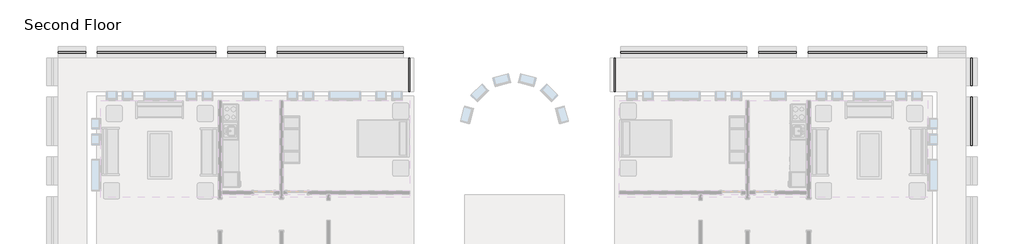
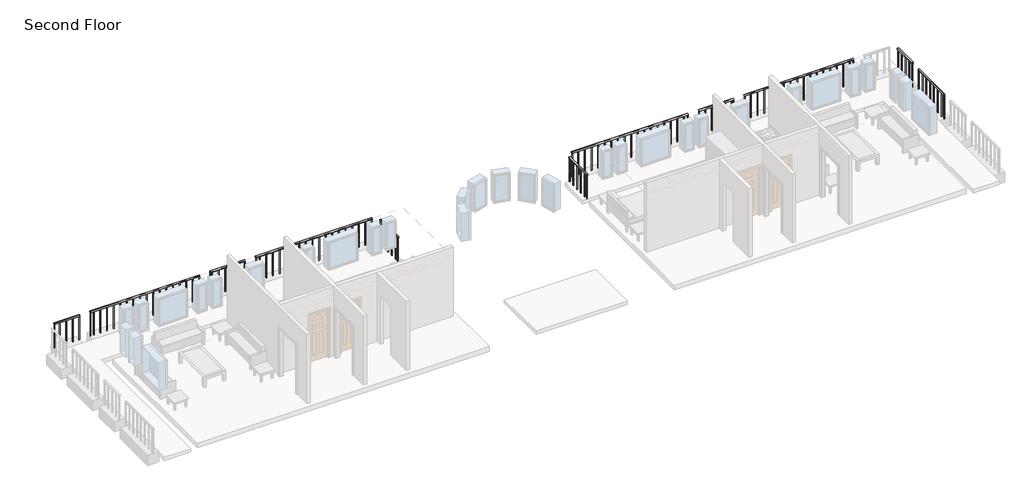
# One storey, part 6 of 8: 11 railings.
"""IFC4 building model written with IfcOpenShell, lengths in millimetres."""

from ifc_helpers import new_model, si_unit, frame, origin, place, context, project, spatial, polyline, outline, extrude, element, save

model = new_model("IFC4")

# Units and contexts
model_context = context("Model", 3, world=origin())
ifc_project = project(units=[si_unit("LENGTHUNIT", "METRE", prefix="MILLI")], contexts=[model_context])

# Site, building, storey
site = spatial("IfcSite", under=ifc_project)
building = spatial("IfcBuilding", under=site)
storey = spatial("IfcBuildingStorey", under=building, Name="Second Floor", Elevation=3048.0)

# Railings
placement = place(None, origin())
element("IfcRailing", 1, ObjectType="1100mm", at=placement, inside=storey, context=model_context, shape_type="SweptSolid", body=[
    extrude(outline(polyline([(-14885.3416203, 4231.1188386), (-14885.3416203, 4281.1188386), (-10043.3416203, 4281.1188386), (-10043.3416203, 4231.1188386), (-14885.3416203, 4231.1188386)])), frame((0.0, 0.0, 4098.0), z_axis=(0.0, 0.0, 1.0), x_axis=(1.0, 0.0, 0.0)), (0.0, 0.0, 1.0), 50.0),
    extrude(outline(polyline([(-10222.8416203, 4243.6188386), (-10222.8416203, 4268.6188386), (-10197.8416203, 4268.6188386), (-10197.8416203, 4243.6188386), (-10222.8416203, 4243.6188386)])), frame((0.0, 0.0, 3048.0), z_axis=(0.0, 0.0, 1.0), x_axis=(1.0, 0.0, 0.0)), (0.0, 0.0, 1.0), 1050.0),
    extrude(outline(polyline([(-10497.8416203, 4243.6188386), (-10497.8416203, 4268.6188386), (-10472.8416203, 4268.6188386), (-10472.8416203, 4243.6188386), (-10497.8416203, 4243.6188386)])), frame((0.0, 0.0, 3048.0), z_axis=(0.0, 0.0, 1.0), x_axis=(1.0, 0.0, 0.0)), (0.0, 0.0, 1.0), 1050.0),
    extrude(outline(polyline([(-10772.8416203, 4243.6188386), (-10772.8416203, 4268.6188386), (-10747.8416203, 4268.6188386), (-10747.8416203, 4243.6188386), (-10772.8416203, 4243.6188386)])), frame((0.0, 0.0, 3048.0), z_axis=(0.0, 0.0, 1.0), x_axis=(1.0, 0.0, 0.0)), (0.0, 0.0, 1.0), 1050.0),
    extrude(outline(polyline([(-11047.8416203, 4243.6188386), (-11047.8416203, 4268.6188386), (-11022.8416203, 4268.6188386), (-11022.8416203, 4243.6188386), (-11047.8416203, 4243.6188386)])), frame((0.0, 0.0, 3048.0), z_axis=(0.0, 0.0, 1.0), x_axis=(1.0, 0.0, 0.0)), (0.0, 0.0, 1.0), 1050.0),
    extrude(outline(polyline([(-11322.8416203, 4243.6188386), (-11322.8416203, 4268.6188386), (-11297.8416203, 4268.6188386), (-11297.8416203, 4243.6188386), (-11322.8416203, 4243.6188386)])), frame((0.0, 0.0, 3048.0), z_axis=(0.0, 0.0, 1.0), x_axis=(1.0, 0.0, 0.0)), (0.0, 0.0, 1.0), 1050.0),
    extrude(outline(polyline([(-11597.8416203, 4243.6188386), (-11597.8416203, 4268.6188386), (-11572.8416203, 4268.6188386), (-11572.8416203, 4243.6188386), (-11597.8416203, 4243.6188386)])), frame((0.0, 0.0, 3048.0), z_axis=(0.0, 0.0, 1.0), x_axis=(1.0, 0.0, 0.0)), (0.0, 0.0, 1.0), 1050.0),
    extrude(outline(polyline([(-11872.8416203, 4243.6188386), (-11872.8416203, 4268.6188386), (-11847.8416203, 4268.6188386), (-11847.8416203, 4243.6188386), (-11872.8416203, 4243.6188386)])), frame((0.0, 0.0, 3048.0), z_axis=(0.0, 0.0, 1.0), x_axis=(1.0, 0.0, 0.0)), (0.0, 0.0, 1.0), 1050.0),
    extrude(outline(polyline([(-12147.8416203, 4243.6188386), (-12147.8416203, 4268.6188386), (-12122.8416203, 4268.6188386), (-12122.8416203, 4243.6188386), (-12147.8416203, 4243.6188386)])), frame((0.0, 0.0, 3048.0), z_axis=(0.0, 0.0, 1.0), x_axis=(1.0, 0.0, 0.0)), (0.0, 0.0, 1.0), 1050.0),
    extrude(outline(polyline([(-12422.8416203, 4243.6188386), (-12422.8416203, 4268.6188386), (-12397.8416203, 4268.6188386), (-12397.8416203, 4243.6188386), (-12422.8416203, 4243.6188386)])), frame((0.0, 0.0, 3048.0), z_axis=(0.0, 0.0, 1.0), x_axis=(1.0, 0.0, 0.0)), (0.0, 0.0, 1.0), 1050.0),
    extrude(outline(polyline([(-12697.8416203, 4243.6188386), (-12697.8416203, 4268.6188386), (-12672.8416203, 4268.6188386), (-12672.8416203, 4243.6188386), (-12697.8416203, 4243.6188386)])), frame((0.0, 0.0, 3048.0), z_axis=(0.0, 0.0, 1.0), x_axis=(1.0, 0.0, 0.0)), (0.0, 0.0, 1.0), 1050.0),
    extrude(outline(polyline([(-12972.8416203, 4243.6188386), (-12972.8416203, 4268.6188386), (-12947.8416203, 4268.6188386), (-12947.8416203, 4243.6188386), (-12972.8416203, 4243.6188386)])), frame((0.0, 0.0, 3048.0), z_axis=(0.0, 0.0, 1.0), x_axis=(1.0, 0.0, 0.0)), (0.0, 0.0, 1.0), 1050.0),
    extrude(outline(polyline([(-13247.8416203, 4243.6188386), (-13247.8416203, 4268.6188386), (-13222.8416203, 4268.6188386), (-13222.8416203, 4243.6188386), (-13247.8416203, 4243.6188386)])), frame((0.0, 0.0, 3048.0), z_axis=(0.0, 0.0, 1.0), x_axis=(1.0, 0.0, 0.0)), (0.0, 0.0, 1.0), 1050.0),
    extrude(outline(polyline([(-13522.8416203, 4243.6188386), (-13522.8416203, 4268.6188386), (-13497.8416203, 4268.6188386), (-13497.8416203, 4243.6188386), (-13522.8416203, 4243.6188386)])), frame((0.0, 0.0, 3048.0), z_axis=(0.0, 0.0, 1.0), x_axis=(1.0, 0.0, 0.0)), (0.0, 0.0, 1.0), 1050.0),
    extrude(outline(polyline([(-13797.8416203, 4243.6188386), (-13797.8416203, 4268.6188386), (-13772.8416203, 4268.6188386), (-13772.8416203, 4243.6188386), (-13797.8416203, 4243.6188386)])), frame((0.0, 0.0, 3048.0), z_axis=(0.0, 0.0, 1.0), x_axis=(1.0, 0.0, 0.0)), (0.0, 0.0, 1.0), 1050.0),
    extrude(outline(polyline([(-14072.8416203, 4243.6188386), (-14072.8416203, 4268.6188386), (-14047.8416203, 4268.6188386), (-14047.8416203, 4243.6188386), (-14072.8416203, 4243.6188386)])), frame((0.0, 0.0, 3048.0), z_axis=(0.0, 0.0, 1.0), x_axis=(1.0, 0.0, 0.0)), (0.0, 0.0, 1.0), 1050.0),
    extrude(outline(polyline([(-14347.8416203, 4243.6188386), (-14347.8416203, 4268.6188386), (-14322.8416203, 4268.6188386), (-14322.8416203, 4243.6188386), (-14347.8416203, 4243.6188386)])), frame((0.0, 0.0, 3048.0), z_axis=(0.0, 0.0, 1.0), x_axis=(1.0, 0.0, 0.0)), (0.0, 0.0, 1.0), 1050.0),
    extrude(outline(polyline([(-14622.8416203, 4243.6188386), (-14622.8416203, 4268.6188386), (-14597.8416203, 4268.6188386), (-14597.8416203, 4243.6188386), (-14622.8416203, 4243.6188386)])), frame((0.0, 0.0, 3048.0), z_axis=(0.0, 0.0, 1.0), x_axis=(1.0, 0.0, 0.0)), (0.0, 0.0, 1.0), 1050.0),
    extrude(outline(polyline([(-10068.3416203, 4243.6188386), (-10068.3416203, 4268.6188386), (-10043.3416203, 4268.6188386), (-10043.3416203, 4243.6188386), (-10068.3416203, 4243.6188386)])), frame((0.0, 0.0, 3048.0), z_axis=(0.0, 0.0, 1.0), x_axis=(1.0, 0.0, 0.0)), (0.0, 0.0, 1.0), 1050.0),
    extrude(outline(polyline([(-14885.3416203, 4243.6188386), (-14885.3416203, 4268.6188386), (-14860.3416203, 4268.6188386), (-14860.3416203, 4243.6188386), (-14885.3416203, 4243.6188386)])), frame((0.0, 0.0, 3048.0), z_axis=(0.0, 0.0, 1.0), x_axis=(1.0, 0.0, 0.0)), (0.0, 0.0, 1.0), 1050.0),
])
element("IfcRailing", 2, ObjectType="1100mm", at=placement, inside=storey, context=model_context, shape_type="SweptSolid", body=[
    extrude(outline(polyline([(-9593.3416203, 4231.1188386), (-9593.3416203, 4281.1188386), (-8143.3416203, 4281.1188386), (-8143.3416203, 4231.1188386), (-9593.3416203, 4231.1188386)])), frame((0.0, 0.0, 4098.0), z_axis=(0.0, 0.0, 1.0), x_axis=(1.0, 0.0, 0.0)), (0.0, 0.0, 1.0), 50.0),
    extrude(outline(polyline([(-8230.8416203, 4243.6188386), (-8230.8416203, 4268.6188386), (-8205.8416203, 4268.6188386), (-8205.8416203, 4243.6188386), (-8230.8416203, 4243.6188386)])), frame((0.0, 0.0, 3048.0), z_axis=(0.0, 0.0, 1.0), x_axis=(1.0, 0.0, 0.0)), (0.0, 0.0, 1.0), 1050.0),
    extrude(outline(polyline([(-8505.8416203, 4243.6188386), (-8505.8416203, 4268.6188386), (-8480.8416203, 4268.6188386), (-8480.8416203, 4243.6188386), (-8505.8416203, 4243.6188386)])), frame((0.0, 0.0, 3048.0), z_axis=(0.0, 0.0, 1.0), x_axis=(1.0, 0.0, 0.0)), (0.0, 0.0, 1.0), 1050.0),
    extrude(outline(polyline([(-8780.8416203, 4243.6188386), (-8780.8416203, 4268.6188386), (-8755.8416203, 4268.6188386), (-8755.8416203, 4243.6188386), (-8780.8416203, 4243.6188386)])), frame((0.0, 0.0, 3048.0), z_axis=(0.0, 0.0, 1.0), x_axis=(1.0, 0.0, 0.0)), (0.0, 0.0, 1.0), 1050.0),
    extrude(outline(polyline([(-9055.8416203, 4243.6188386), (-9055.8416203, 4268.6188386), (-9030.8416203, 4268.6188386), (-9030.8416203, 4243.6188386), (-9055.8416203, 4243.6188386)])), frame((0.0, 0.0, 3048.0), z_axis=(0.0, 0.0, 1.0), x_axis=(1.0, 0.0, 0.0)), (0.0, 0.0, 1.0), 1050.0),
    extrude(outline(polyline([(-9330.8416203, 4243.6188386), (-9330.8416203, 4268.6188386), (-9305.8416203, 4268.6188386), (-9305.8416203, 4243.6188386), (-9330.8416203, 4243.6188386)])), frame((0.0, 0.0, 3048.0), z_axis=(0.0, 0.0, 1.0), x_axis=(1.0, 0.0, 0.0)), (0.0, 0.0, 1.0), 1050.0),
    extrude(outline(polyline([(-8168.3416203, 4243.6188386), (-8168.3416203, 4268.6188386), (-8143.3416203, 4268.6188386), (-8143.3416203, 4243.6188386), (-8168.3416203, 4243.6188386)])), frame((0.0, 0.0, 3048.0), z_axis=(0.0, 0.0, 1.0), x_axis=(1.0, 0.0, 0.0)), (0.0, 0.0, 1.0), 1050.0),
    extrude(outline(polyline([(-9593.3416203, 4243.6188386), (-9593.3416203, 4268.6188386), (-9568.3416203, 4268.6188386), (-9568.3416203, 4243.6188386), (-9593.3416203, 4243.6188386)])), frame((0.0, 0.0, 3048.0), z_axis=(0.0, 0.0, 1.0), x_axis=(1.0, 0.0, 0.0)), (0.0, 0.0, 1.0), 1050.0),
])
element("IfcRailing", 3, ObjectType="1100mm", at=placement, inside=storey, context=model_context, shape_type="SweptSolid", body=[
    extrude(outline(polyline([(-7693.3416203, 4231.1188386), (-7693.3416203, 4281.1188386), (-3143.3416203, 4281.1188386), (-3143.3416203, 4231.1188386), (-7693.3416203, 4231.1188386)])), frame((0.0, 0.0, 4098.0), z_axis=(0.0, 0.0, 1.0), x_axis=(1.0, 0.0, 0.0)), (0.0, 0.0, 1.0), 50.0),
    extrude(outline(polyline([(-3305.8416203, 4243.6188386), (-3305.8416203, 4268.6188386), (-3280.8416203, 4268.6188386), (-3280.8416203, 4243.6188386), (-3305.8416203, 4243.6188386)])), frame((0.0, 0.0, 3048.0), z_axis=(0.0, 0.0, 1.0), x_axis=(1.0, 0.0, 0.0)), (0.0, 0.0, 1.0), 1050.0),
    extrude(outline(polyline([(-3580.8416203, 4243.6188386), (-3580.8416203, 4268.6188386), (-3555.8416203, 4268.6188386), (-3555.8416203, 4243.6188386), (-3580.8416203, 4243.6188386)])), frame((0.0, 0.0, 3048.0), z_axis=(0.0, 0.0, 1.0), x_axis=(1.0, 0.0, 0.0)), (0.0, 0.0, 1.0), 1050.0),
    extrude(outline(polyline([(-3855.8416203, 4243.6188386), (-3855.8416203, 4268.6188386), (-3830.8416203, 4268.6188386), (-3830.8416203, 4243.6188386), (-3855.8416203, 4243.6188386)])), frame((0.0, 0.0, 3048.0), z_axis=(0.0, 0.0, 1.0), x_axis=(1.0, 0.0, 0.0)), (0.0, 0.0, 1.0), 1050.0),
    extrude(outline(polyline([(-4130.8416203, 4243.6188386), (-4130.8416203, 4268.6188386), (-4105.8416203, 4268.6188386), (-4105.8416203, 4243.6188386), (-4130.8416203, 4243.6188386)])), frame((0.0, 0.0, 3048.0), z_axis=(0.0, 0.0, 1.0), x_axis=(1.0, 0.0, 0.0)), (0.0, 0.0, 1.0), 1050.0),
    extrude(outline(polyline([(-4405.8416203, 4243.6188386), (-4405.8416203, 4268.6188386), (-4380.8416203, 4268.6188386), (-4380.8416203, 4243.6188386), (-4405.8416203, 4243.6188386)])), frame((0.0, 0.0, 3048.0), z_axis=(0.0, 0.0, 1.0), x_axis=(1.0, 0.0, 0.0)), (0.0, 0.0, 1.0), 1050.0),
    extrude(outline(polyline([(-4680.8416203, 4243.6188386), (-4680.8416203, 4268.6188386), (-4655.8416203, 4268.6188386), (-4655.8416203, 4243.6188386), (-4680.8416203, 4243.6188386)])), frame((0.0, 0.0, 3048.0), z_axis=(0.0, 0.0, 1.0), x_axis=(1.0, 0.0, 0.0)), (0.0, 0.0, 1.0), 1050.0),
    extrude(outline(polyline([(-4955.8416203, 4243.6188386), (-4955.8416203, 4268.6188386), (-4930.8416203, 4268.6188386), (-4930.8416203, 4243.6188386), (-4955.8416203, 4243.6188386)])), frame((0.0, 0.0, 3048.0), z_axis=(0.0, 0.0, 1.0), x_axis=(1.0, 0.0, 0.0)), (0.0, 0.0, 1.0), 1050.0),
    extrude(outline(polyline([(-5230.8416203, 4243.6188386), (-5230.8416203, 4268.6188386), (-5205.8416203, 4268.6188386), (-5205.8416203, 4243.6188386), (-5230.8416203, 4243.6188386)])), frame((0.0, 0.0, 3048.0), z_axis=(0.0, 0.0, 1.0), x_axis=(1.0, 0.0, 0.0)), (0.0, 0.0, 1.0), 1050.0),
    extrude(outline(polyline([(-5505.8416203, 4243.6188386), (-5505.8416203, 4268.6188386), (-5480.8416203, 4268.6188386), (-5480.8416203, 4243.6188386), (-5505.8416203, 4243.6188386)])), frame((0.0, 0.0, 3048.0), z_axis=(0.0, 0.0, 1.0), x_axis=(1.0, 0.0, 0.0)), (0.0, 0.0, 1.0), 1050.0),
    extrude(outline(polyline([(-5780.8416203, 4243.6188386), (-5780.8416203, 4268.6188386), (-5755.8416203, 4268.6188386), (-5755.8416203, 4243.6188386), (-5780.8416203, 4243.6188386)])), frame((0.0, 0.0, 3048.0), z_axis=(0.0, 0.0, 1.0), x_axis=(1.0, 0.0, 0.0)), (0.0, 0.0, 1.0), 1050.0),
    extrude(outline(polyline([(-6055.8416203, 4243.6188386), (-6055.8416203, 4268.6188386), (-6030.8416203, 4268.6188386), (-6030.8416203, 4243.6188386), (-6055.8416203, 4243.6188386)])), frame((0.0, 0.0, 3048.0), z_axis=(0.0, 0.0, 1.0), x_axis=(1.0, 0.0, 0.0)), (0.0, 0.0, 1.0), 1050.0),
    extrude(outline(polyline([(-6330.8416203, 4243.6188386), (-6330.8416203, 4268.6188386), (-6305.8416203, 4268.6188386), (-6305.8416203, 4243.6188386), (-6330.8416203, 4243.6188386)])), frame((0.0, 0.0, 3048.0), z_axis=(0.0, 0.0, 1.0), x_axis=(1.0, 0.0, 0.0)), (0.0, 0.0, 1.0), 1050.0),
    extrude(outline(polyline([(-6605.8416203, 4243.6188386), (-6605.8416203, 4268.6188386), (-6580.8416203, 4268.6188386), (-6580.8416203, 4243.6188386), (-6605.8416203, 4243.6188386)])), frame((0.0, 0.0, 3048.0), z_axis=(0.0, 0.0, 1.0), x_axis=(1.0, 0.0, 0.0)), (0.0, 0.0, 1.0), 1050.0),
    extrude(outline(polyline([(-6880.8416203, 4243.6188386), (-6880.8416203, 4268.6188386), (-6855.8416203, 4268.6188386), (-6855.8416203, 4243.6188386), (-6880.8416203, 4243.6188386)])), frame((0.0, 0.0, 3048.0), z_axis=(0.0, 0.0, 1.0), x_axis=(1.0, 0.0, 0.0)), (0.0, 0.0, 1.0), 1050.0),
    extrude(outline(polyline([(-7155.8416203, 4243.6188386), (-7155.8416203, 4268.6188386), (-7130.8416203, 4268.6188386), (-7130.8416203, 4243.6188386), (-7155.8416203, 4243.6188386)])), frame((0.0, 0.0, 3048.0), z_axis=(0.0, 0.0, 1.0), x_axis=(1.0, 0.0, 0.0)), (0.0, 0.0, 1.0), 1050.0),
    extrude(outline(polyline([(-7430.8416203, 4243.6188386), (-7430.8416203, 4268.6188386), (-7405.8416203, 4268.6188386), (-7405.8416203, 4243.6188386), (-7430.8416203, 4243.6188386)])), frame((0.0, 0.0, 3048.0), z_axis=(0.0, 0.0, 1.0), x_axis=(1.0, 0.0, 0.0)), (0.0, 0.0, 1.0), 1050.0),
    extrude(outline(polyline([(-3168.3416203, 4243.6188386), (-3168.3416203, 4268.6188386), (-3143.3416203, 4268.6188386), (-3143.3416203, 4243.6188386), (-3168.3416203, 4243.6188386)])), frame((0.0, 0.0, 3048.0), z_axis=(0.0, 0.0, 1.0), x_axis=(1.0, 0.0, 0.0)), (0.0, 0.0, 1.0), 1050.0),
    extrude(outline(polyline([(-7693.3416203, 4243.6188386), (-7693.3416203, 4268.6188386), (-7668.3416203, 4268.6188386), (-7668.3416203, 4243.6188386), (-7693.3416203, 4243.6188386)])), frame((0.0, 0.0, 3048.0), z_axis=(0.0, 0.0, 1.0), x_axis=(1.0, 0.0, 0.0)), (0.0, 0.0, 1.0), 1050.0),
])
element("IfcRailing", 4, ObjectType="1100mm", at=placement, inside=storey, context=model_context, shape_type="SweptSolid", body=[
    extrude(outline(polyline([(-1443.3416203, 4031.1188386), (-1393.3416203, 4031.1188386), (-1393.3416203, 2981.1188386), (-1443.3416203, 2981.1188386), (-1443.3416203, 4031.1188386)])), frame((0.0, 0.0, 4098.0), z_axis=(0.0, 0.0, 1.0), x_axis=(1.0, 0.0, 0.0)), (0.0, 0.0, 1.0), 50.0),
    extrude(outline(polyline([(-1430.8416203, 3218.6188386), (-1405.8416203, 3218.6188386), (-1405.8416203, 3193.6188386), (-1430.8416203, 3193.6188386), (-1430.8416203, 3218.6188386)])), frame((0.0, 0.0, 3048.0), z_axis=(0.0, 0.0, 1.0), x_axis=(1.0, 0.0, 0.0)), (0.0, 0.0, 1.0), 1050.0),
    extrude(outline(polyline([(-1430.8416203, 3493.6188386), (-1405.8416203, 3493.6188386), (-1405.8416203, 3468.6188386), (-1430.8416203, 3468.6188386), (-1430.8416203, 3493.6188386)])), frame((0.0, 0.0, 3048.0), z_axis=(0.0, 0.0, 1.0), x_axis=(1.0, 0.0, 0.0)), (0.0, 0.0, 1.0), 1050.0),
    extrude(outline(polyline([(-1430.8416203, 3768.6188386), (-1405.8416203, 3768.6188386), (-1405.8416203, 3743.6188386), (-1430.8416203, 3743.6188386), (-1430.8416203, 3768.6188386)])), frame((0.0, 0.0, 3048.0), z_axis=(0.0, 0.0, 1.0), x_axis=(1.0, 0.0, 0.0)), (0.0, 0.0, 1.0), 1050.0),
    extrude(outline(polyline([(-1430.8416203, 3006.1188386), (-1405.8416203, 3006.1188386), (-1405.8416203, 2981.1188386), (-1430.8416203, 2981.1188386), (-1430.8416203, 3006.1188386)])), frame((0.0, 0.0, 3048.0), z_axis=(0.0, 0.0, 1.0), x_axis=(1.0, 0.0, 0.0)), (0.0, 0.0, 1.0), 1050.0),
    extrude(outline(polyline([(-1430.8416203, 4031.1188386), (-1405.8416203, 4031.1188386), (-1405.8416203, 4006.1188386), (-1430.8416203, 4006.1188386), (-1430.8416203, 4031.1188386)])), frame((0.0, 0.0, 3048.0), z_axis=(0.0, 0.0, 1.0), x_axis=(1.0, 0.0, 0.0)), (0.0, 0.0, 1.0), 1050.0),
])
element("IfcRailing", 5, ObjectType="1100mm", at=placement, inside=storey, context=model_context, shape_type="SweptSolid", body=[
    extrude(outline(polyline([(-1443.3416203, 2531.1188386), (-1393.3416203, 2531.1188386), (-1393.3416203, 681.1188386), (-1443.3416203, 681.1188386), (-1443.3416203, 2531.1188386)])), frame((0.0, 0.0, 4098.0), z_axis=(0.0, 0.0, 1.0), x_axis=(1.0, 0.0, 0.0)), (0.0, 0.0, 1.0), 50.0),
    extrude(outline(polyline([(-1430.8416203, 893.6188386), (-1405.8416203, 893.6188386), (-1405.8416203, 868.6188386), (-1430.8416203, 868.6188386), (-1430.8416203, 893.6188386)])), frame((0.0, 0.0, 3048.0), z_axis=(0.0, 0.0, 1.0), x_axis=(1.0, 0.0, 0.0)), (0.0, 0.0, 1.0), 1050.0),
    extrude(outline(polyline([(-1430.8416203, 1168.6188386), (-1405.8416203, 1168.6188386), (-1405.8416203, 1143.6188386), (-1430.8416203, 1143.6188386), (-1430.8416203, 1168.6188386)])), frame((0.0, 0.0, 3048.0), z_axis=(0.0, 0.0, 1.0), x_axis=(1.0, 0.0, 0.0)), (0.0, 0.0, 1.0), 1050.0),
    extrude(outline(polyline([(-1430.8416203, 1443.6188386), (-1405.8416203, 1443.6188386), (-1405.8416203, 1418.6188386), (-1430.8416203, 1418.6188386), (-1430.8416203, 1443.6188386)])), frame((0.0, 0.0, 3048.0), z_axis=(0.0, 0.0, 1.0), x_axis=(1.0, 0.0, 0.0)), (0.0, 0.0, 1.0), 1050.0),
    extrude(outline(polyline([(-1430.8416203, 1718.6188386), (-1405.8416203, 1718.6188386), (-1405.8416203, 1693.6188386), (-1430.8416203, 1693.6188386), (-1430.8416203, 1718.6188386)])), frame((0.0, 0.0, 3048.0), z_axis=(0.0, 0.0, 1.0), x_axis=(1.0, 0.0, 0.0)), (0.0, 0.0, 1.0), 1050.0),
    extrude(outline(polyline([(-1430.8416203, 1993.6188386), (-1405.8416203, 1993.6188386), (-1405.8416203, 1968.6188386), (-1430.8416203, 1968.6188386), (-1430.8416203, 1993.6188386)])), frame((0.0, 0.0, 3048.0), z_axis=(0.0, 0.0, 1.0), x_axis=(1.0, 0.0, 0.0)), (0.0, 0.0, 1.0), 1050.0),
    extrude(outline(polyline([(-1430.8416203, 2268.6188386), (-1405.8416203, 2268.6188386), (-1405.8416203, 2243.6188386), (-1430.8416203, 2243.6188386), (-1430.8416203, 2268.6188386)])), frame((0.0, 0.0, 3048.0), z_axis=(0.0, 0.0, 1.0), x_axis=(1.0, 0.0, 0.0)), (0.0, 0.0, 1.0), 1050.0),
    extrude(outline(polyline([(-1430.8416203, 706.1188386), (-1405.8416203, 706.1188386), (-1405.8416203, 681.1188386), (-1430.8416203, 681.1188386), (-1430.8416203, 706.1188386)])), frame((0.0, 0.0, 3048.0), z_axis=(0.0, 0.0, 1.0), x_axis=(1.0, 0.0, 0.0)), (0.0, 0.0, 1.0), 1050.0),
    extrude(outline(polyline([(-1430.8416203, 2531.1188386), (-1405.8416203, 2531.1188386), (-1405.8416203, 2506.1188386), (-1430.8416203, 2506.1188386), (-1430.8416203, 2531.1188386)])), frame((0.0, 0.0, 3048.0), z_axis=(0.0, 0.0, 1.0), x_axis=(1.0, 0.0, 0.0)), (0.0, 0.0, 1.0), 1050.0),
])
element("IfcRailing", 6, ObjectType="1100mm", at=placement, inside=storey, context=model_context, shape_type="SweptSolid", body=[
    extrude(outline(polyline([(-15135.3416203, 4031.1188386), (-15085.3416203, 4031.1188386), (-15085.3416203, 2756.1188386), (-15135.3416203, 2756.1188386), (-15135.3416203, 4031.1188386)])), frame((0.0, 0.0, 4098.0), z_axis=(0.0, 0.0, 1.0), x_axis=(1.0, 0.0, 0.0)), (0.0, 0.0, 1.0), 50.0),
    extrude(outline(polyline([(-15122.8416203, 2943.6188386), (-15097.8416203, 2943.6188386), (-15097.8416203, 2918.6188386), (-15122.8416203, 2918.6188386), (-15122.8416203, 2943.6188386)])), frame((0.0, 0.0, 3048.0), z_axis=(0.0, 0.0, 1.0), x_axis=(1.0, 0.0, 0.0)), (0.0, 0.0, 1.0), 1050.0),
    extrude(outline(polyline([(-15122.8416203, 3218.6188386), (-15097.8416203, 3218.6188386), (-15097.8416203, 3193.6188386), (-15122.8416203, 3193.6188386), (-15122.8416203, 3218.6188386)])), frame((0.0, 0.0, 3048.0), z_axis=(0.0, 0.0, 1.0), x_axis=(1.0, 0.0, 0.0)), (0.0, 0.0, 1.0), 1050.0),
    extrude(outline(polyline([(-15122.8416203, 3493.6188386), (-15097.8416203, 3493.6188386), (-15097.8416203, 3468.6188386), (-15122.8416203, 3468.6188386), (-15122.8416203, 3493.6188386)])), frame((0.0, 0.0, 3048.0), z_axis=(0.0, 0.0, 1.0), x_axis=(1.0, 0.0, 0.0)), (0.0, 0.0, 1.0), 1050.0),
    extrude(outline(polyline([(-15122.8416203, 3768.6188386), (-15097.8416203, 3768.6188386), (-15097.8416203, 3743.6188386), (-15122.8416203, 3743.6188386), (-15122.8416203, 3768.6188386)])), frame((0.0, 0.0, 3048.0), z_axis=(0.0, 0.0, 1.0), x_axis=(1.0, 0.0, 0.0)), (0.0, 0.0, 1.0), 1050.0),
    extrude(outline(polyline([(-15122.8416203, 2781.1188386), (-15097.8416203, 2781.1188386), (-15097.8416203, 2756.1188386), (-15122.8416203, 2756.1188386), (-15122.8416203, 2781.1188386)])), frame((0.0, 0.0, 3048.0), z_axis=(0.0, 0.0, 1.0), x_axis=(1.0, 0.0, 0.0)), (0.0, 0.0, 1.0), 1050.0),
    extrude(outline(polyline([(-15122.8416203, 4031.1188386), (-15097.8416203, 4031.1188386), (-15097.8416203, 4006.1188386), (-15122.8416203, 4006.1188386), (-15122.8416203, 4031.1188386)])), frame((0.0, 0.0, 3048.0), z_axis=(0.0, 0.0, 1.0), x_axis=(1.0, 0.0, 0.0)), (0.0, 0.0, 1.0), 1050.0),
])
element("IfcRailing", 7, ObjectType="1100mm", at=placement, inside=storey, context=model_context, shape_type="SweptSolid", body=[
    extrude(outline(polyline([(-23216.8416203, 4281.1188386), (-23216.8416203, 4231.1188386), (-28058.8416203, 4231.1188386), (-28058.8416203, 4281.1188386), (-23216.8416203, 4281.1188386)])), frame((0.0, 0.0, 4098.0), z_axis=(0.0, 0.0, 1.0), x_axis=(1.0, 0.0, 0.0)), (0.0, 0.0, 1.0), 50.0),
    extrude(outline(polyline([(-27879.3416203, 4243.6188386), (-27904.3416203, 4243.6188386), (-27904.3416203, 4268.6188386), (-27879.3416203, 4268.6188386), (-27879.3416203, 4243.6188386)])), frame((0.0, 0.0, 3048.0), z_axis=(0.0, 0.0, 1.0), x_axis=(1.0, 0.0, 0.0)), (0.0, 0.0, 1.0), 1050.0),
    extrude(outline(polyline([(-27604.3416203, 4243.6188386), (-27629.3416203, 4243.6188386), (-27629.3416203, 4268.6188386), (-27604.3416203, 4268.6188386), (-27604.3416203, 4243.6188386)])), frame((0.0, 0.0, 3048.0), z_axis=(0.0, 0.0, 1.0), x_axis=(1.0, 0.0, 0.0)), (0.0, 0.0, 1.0), 1050.0),
    extrude(outline(polyline([(-27329.3416203, 4243.6188386), (-27354.3416203, 4243.6188386), (-27354.3416203, 4268.6188386), (-27329.3416203, 4268.6188386), (-27329.3416203, 4243.6188386)])), frame((0.0, 0.0, 3048.0), z_axis=(0.0, 0.0, 1.0), x_axis=(1.0, 0.0, 0.0)), (0.0, 0.0, 1.0), 1050.0),
    extrude(outline(polyline([(-27054.3416203, 4243.6188386), (-27079.3416203, 4243.6188386), (-27079.3416203, 4268.6188386), (-27054.3416203, 4268.6188386), (-27054.3416203, 4243.6188386)])), frame((0.0, 0.0, 3048.0), z_axis=(0.0, 0.0, 1.0), x_axis=(1.0, 0.0, 0.0)), (0.0, 0.0, 1.0), 1050.0),
    extrude(outline(polyline([(-26779.3416203, 4243.6188386), (-26804.3416203, 4243.6188386), (-26804.3416203, 4268.6188386), (-26779.3416203, 4268.6188386), (-26779.3416203, 4243.6188386)])), frame((0.0, 0.0, 3048.0), z_axis=(0.0, 0.0, 1.0), x_axis=(1.0, 0.0, 0.0)), (0.0, 0.0, 1.0), 1050.0),
    extrude(outline(polyline([(-26504.3416203, 4243.6188386), (-26529.3416203, 4243.6188386), (-26529.3416203, 4268.6188386), (-26504.3416203, 4268.6188386), (-26504.3416203, 4243.6188386)])), frame((0.0, 0.0, 3048.0), z_axis=(0.0, 0.0, 1.0), x_axis=(1.0, 0.0, 0.0)), (0.0, 0.0, 1.0), 1050.0),
    extrude(outline(polyline([(-26229.3416203, 4243.6188386), (-26254.3416203, 4243.6188386), (-26254.3416203, 4268.6188386), (-26229.3416203, 4268.6188386), (-26229.3416203, 4243.6188386)])), frame((0.0, 0.0, 3048.0), z_axis=(0.0, 0.0, 1.0), x_axis=(1.0, 0.0, 0.0)), (0.0, 0.0, 1.0), 1050.0),
    extrude(outline(polyline([(-25954.3416203, 4243.6188386), (-25979.3416203, 4243.6188386), (-25979.3416203, 4268.6188386), (-25954.3416203, 4268.6188386), (-25954.3416203, 4243.6188386)])), frame((0.0, 0.0, 3048.0), z_axis=(0.0, 0.0, 1.0), x_axis=(1.0, 0.0, 0.0)), (0.0, 0.0, 1.0), 1050.0),
    extrude(outline(polyline([(-25679.3416203, 4243.6188386), (-25704.3416203, 4243.6188386), (-25704.3416203, 4268.6188386), (-25679.3416203, 4268.6188386), (-25679.3416203, 4243.6188386)])), frame((0.0, 0.0, 3048.0), z_axis=(0.0, 0.0, 1.0), x_axis=(1.0, 0.0, 0.0)), (0.0, 0.0, 1.0), 1050.0),
    extrude(outline(polyline([(-25404.3416203, 4243.6188386), (-25429.3416203, 4243.6188386), (-25429.3416203, 4268.6188386), (-25404.3416203, 4268.6188386), (-25404.3416203, 4243.6188386)])), frame((0.0, 0.0, 3048.0), z_axis=(0.0, 0.0, 1.0), x_axis=(1.0, 0.0, 0.0)), (0.0, 0.0, 1.0), 1050.0),
    extrude(outline(polyline([(-25129.3416203, 4243.6188386), (-25154.3416203, 4243.6188386), (-25154.3416203, 4268.6188386), (-25129.3416203, 4268.6188386), (-25129.3416203, 4243.6188386)])), frame((0.0, 0.0, 3048.0), z_axis=(0.0, 0.0, 1.0), x_axis=(1.0, 0.0, 0.0)), (0.0, 0.0, 1.0), 1050.0),
    extrude(outline(polyline([(-24854.3416203, 4243.6188386), (-24879.3416203, 4243.6188386), (-24879.3416203, 4268.6188386), (-24854.3416203, 4268.6188386), (-24854.3416203, 4243.6188386)])), frame((0.0, 0.0, 3048.0), z_axis=(0.0, 0.0, 1.0), x_axis=(1.0, 0.0, 0.0)), (0.0, 0.0, 1.0), 1050.0),
    extrude(outline(polyline([(-24579.3416203, 4243.6188386), (-24604.3416203, 4243.6188386), (-24604.3416203, 4268.6188386), (-24579.3416203, 4268.6188386), (-24579.3416203, 4243.6188386)])), frame((0.0, 0.0, 3048.0), z_axis=(0.0, 0.0, 1.0), x_axis=(1.0, 0.0, 0.0)), (0.0, 0.0, 1.0), 1050.0),
    extrude(outline(polyline([(-24304.3416203, 4243.6188386), (-24329.3416203, 4243.6188386), (-24329.3416203, 4268.6188386), (-24304.3416203, 4268.6188386), (-24304.3416203, 4243.6188386)])), frame((0.0, 0.0, 3048.0), z_axis=(0.0, 0.0, 1.0), x_axis=(1.0, 0.0, 0.0)), (0.0, 0.0, 1.0), 1050.0),
    extrude(outline(polyline([(-24029.3416203, 4243.6188386), (-24054.3416203, 4243.6188386), (-24054.3416203, 4268.6188386), (-24029.3416203, 4268.6188386), (-24029.3416203, 4243.6188386)])), frame((0.0, 0.0, 3048.0), z_axis=(0.0, 0.0, 1.0), x_axis=(1.0, 0.0, 0.0)), (0.0, 0.0, 1.0), 1050.0),
    extrude(outline(polyline([(-23754.3416203, 4243.6188386), (-23779.3416203, 4243.6188386), (-23779.3416203, 4268.6188386), (-23754.3416203, 4268.6188386), (-23754.3416203, 4243.6188386)])), frame((0.0, 0.0, 3048.0), z_axis=(0.0, 0.0, 1.0), x_axis=(1.0, 0.0, 0.0)), (0.0, 0.0, 1.0), 1050.0),
    extrude(outline(polyline([(-23479.3416203, 4243.6188386), (-23504.3416203, 4243.6188386), (-23504.3416203, 4268.6188386), (-23479.3416203, 4268.6188386), (-23479.3416203, 4243.6188386)])), frame((0.0, 0.0, 3048.0), z_axis=(0.0, 0.0, 1.0), x_axis=(1.0, 0.0, 0.0)), (0.0, 0.0, 1.0), 1050.0),
    extrude(outline(polyline([(-28033.8416203, 4243.6188386), (-28058.8416203, 4243.6188386), (-28058.8416203, 4268.6188386), (-28033.8416203, 4268.6188386), (-28033.8416203, 4243.6188386)])), frame((0.0, 0.0, 3048.0), z_axis=(0.0, 0.0, 1.0), x_axis=(1.0, 0.0, 0.0)), (0.0, 0.0, 1.0), 1050.0),
    extrude(outline(polyline([(-23216.8416203, 4243.6188386), (-23241.8416203, 4243.6188386), (-23241.8416203, 4268.6188386), (-23216.8416203, 4268.6188386), (-23216.8416203, 4243.6188386)])), frame((0.0, 0.0, 3048.0), z_axis=(0.0, 0.0, 1.0), x_axis=(1.0, 0.0, 0.0)), (0.0, 0.0, 1.0), 1050.0),
])
element("IfcRailing", 8, ObjectType="1100mm", at=placement, inside=storey, context=model_context, shape_type="SweptSolid", body=[
    extrude(outline(polyline([(-28508.8416203, 4281.1188386), (-28508.8416203, 4231.1188386), (-29958.8416203, 4231.1188386), (-29958.8416203, 4281.1188386), (-28508.8416203, 4281.1188386)])), frame((0.0, 0.0, 4098.0), z_axis=(0.0, 0.0, 1.0), x_axis=(1.0, 0.0, 0.0)), (0.0, 0.0, 1.0), 50.0),
    extrude(outline(polyline([(-29871.3416203, 4243.6188386), (-29896.3416203, 4243.6188386), (-29896.3416203, 4268.6188386), (-29871.3416203, 4268.6188386), (-29871.3416203, 4243.6188386)])), frame((0.0, 0.0, 3048.0), z_axis=(0.0, 0.0, 1.0), x_axis=(1.0, 0.0, 0.0)), (0.0, 0.0, 1.0), 1050.0),
    extrude(outline(polyline([(-29596.3416203, 4243.6188386), (-29621.3416203, 4243.6188386), (-29621.3416203, 4268.6188386), (-29596.3416203, 4268.6188386), (-29596.3416203, 4243.6188386)])), frame((0.0, 0.0, 3048.0), z_axis=(0.0, 0.0, 1.0), x_axis=(1.0, 0.0, 0.0)), (0.0, 0.0, 1.0), 1050.0),
    extrude(outline(polyline([(-29321.3416203, 4243.6188386), (-29346.3416203, 4243.6188386), (-29346.3416203, 4268.6188386), (-29321.3416203, 4268.6188386), (-29321.3416203, 4243.6188386)])), frame((0.0, 0.0, 3048.0), z_axis=(0.0, 0.0, 1.0), x_axis=(1.0, 0.0, 0.0)), (0.0, 0.0, 1.0), 1050.0),
    extrude(outline(polyline([(-29046.3416203, 4243.6188386), (-29071.3416203, 4243.6188386), (-29071.3416203, 4268.6188386), (-29046.3416203, 4268.6188386), (-29046.3416203, 4243.6188386)])), frame((0.0, 0.0, 3048.0), z_axis=(0.0, 0.0, 1.0), x_axis=(1.0, 0.0, 0.0)), (0.0, 0.0, 1.0), 1050.0),
    extrude(outline(polyline([(-28771.3416203, 4243.6188386), (-28796.3416203, 4243.6188386), (-28796.3416203, 4268.6188386), (-28771.3416203, 4268.6188386), (-28771.3416203, 4243.6188386)])), frame((0.0, 0.0, 3048.0), z_axis=(0.0, 0.0, 1.0), x_axis=(1.0, 0.0, 0.0)), (0.0, 0.0, 1.0), 1050.0),
    extrude(outline(polyline([(-29933.8416203, 4243.6188386), (-29958.8416203, 4243.6188386), (-29958.8416203, 4268.6188386), (-29933.8416203, 4268.6188386), (-29933.8416203, 4243.6188386)])), frame((0.0, 0.0, 3048.0), z_axis=(0.0, 0.0, 1.0), x_axis=(1.0, 0.0, 0.0)), (0.0, 0.0, 1.0), 1050.0),
    extrude(outline(polyline([(-28508.8416203, 4243.6188386), (-28533.8416203, 4243.6188386), (-28533.8416203, 4268.6188386), (-28508.8416203, 4268.6188386), (-28508.8416203, 4243.6188386)])), frame((0.0, 0.0, 3048.0), z_axis=(0.0, 0.0, 1.0), x_axis=(1.0, 0.0, 0.0)), (0.0, 0.0, 1.0), 1050.0),
])
element("IfcRailing", 9, ObjectType="1100mm", at=placement, inside=storey, context=model_context, shape_type="SweptSolid", body=[
    extrude(outline(polyline([(-30408.8416203, 4281.1188386), (-30408.8416203, 4231.1188386), (-34958.8416203, 4231.1188386), (-34958.8416203, 4281.1188386), (-30408.8416203, 4281.1188386)])), frame((0.0, 0.0, 4098.0), z_axis=(0.0, 0.0, 1.0), x_axis=(1.0, 0.0, 0.0)), (0.0, 0.0, 1.0), 50.0),
    extrude(outline(polyline([(-34796.3416203, 4243.6188386), (-34821.3416203, 4243.6188386), (-34821.3416203, 4268.6188386), (-34796.3416203, 4268.6188386), (-34796.3416203, 4243.6188386)])), frame((0.0, 0.0, 3048.0), z_axis=(0.0, 0.0, 1.0), x_axis=(1.0, 0.0, 0.0)), (0.0, 0.0, 1.0), 1050.0),
    extrude(outline(polyline([(-34521.3416203, 4243.6188386), (-34546.3416203, 4243.6188386), (-34546.3416203, 4268.6188386), (-34521.3416203, 4268.6188386), (-34521.3416203, 4243.6188386)])), frame((0.0, 0.0, 3048.0), z_axis=(0.0, 0.0, 1.0), x_axis=(1.0, 0.0, 0.0)), (0.0, 0.0, 1.0), 1050.0),
    extrude(outline(polyline([(-34246.3416203, 4243.6188386), (-34271.3416203, 4243.6188386), (-34271.3416203, 4268.6188386), (-34246.3416203, 4268.6188386), (-34246.3416203, 4243.6188386)])), frame((0.0, 0.0, 3048.0), z_axis=(0.0, 0.0, 1.0), x_axis=(1.0, 0.0, 0.0)), (0.0, 0.0, 1.0), 1050.0),
    extrude(outline(polyline([(-33971.3416203, 4243.6188386), (-33996.3416203, 4243.6188386), (-33996.3416203, 4268.6188386), (-33971.3416203, 4268.6188386), (-33971.3416203, 4243.6188386)])), frame((0.0, 0.0, 3048.0), z_axis=(0.0, 0.0, 1.0), x_axis=(1.0, 0.0, 0.0)), (0.0, 0.0, 1.0), 1050.0),
    extrude(outline(polyline([(-33696.3416203, 4243.6188386), (-33721.3416203, 4243.6188386), (-33721.3416203, 4268.6188386), (-33696.3416203, 4268.6188386), (-33696.3416203, 4243.6188386)])), frame((0.0, 0.0, 3048.0), z_axis=(0.0, 0.0, 1.0), x_axis=(1.0, 0.0, 0.0)), (0.0, 0.0, 1.0), 1050.0),
    extrude(outline(polyline([(-33421.3416203, 4243.6188386), (-33446.3416203, 4243.6188386), (-33446.3416203, 4268.6188386), (-33421.3416203, 4268.6188386), (-33421.3416203, 4243.6188386)])), frame((0.0, 0.0, 3048.0), z_axis=(0.0, 0.0, 1.0), x_axis=(1.0, 0.0, 0.0)), (0.0, 0.0, 1.0), 1050.0),
    extrude(outline(polyline([(-33146.3416203, 4243.6188386), (-33171.3416203, 4243.6188386), (-33171.3416203, 4268.6188386), (-33146.3416203, 4268.6188386), (-33146.3416203, 4243.6188386)])), frame((0.0, 0.0, 3048.0), z_axis=(0.0, 0.0, 1.0), x_axis=(1.0, 0.0, 0.0)), (0.0, 0.0, 1.0), 1050.0),
    extrude(outline(polyline([(-32871.3416203, 4243.6188386), (-32896.3416203, 4243.6188386), (-32896.3416203, 4268.6188386), (-32871.3416203, 4268.6188386), (-32871.3416203, 4243.6188386)])), frame((0.0, 0.0, 3048.0), z_axis=(0.0, 0.0, 1.0), x_axis=(1.0, 0.0, 0.0)), (0.0, 0.0, 1.0), 1050.0),
    extrude(outline(polyline([(-32596.3416203, 4243.6188386), (-32621.3416203, 4243.6188386), (-32621.3416203, 4268.6188386), (-32596.3416203, 4268.6188386), (-32596.3416203, 4243.6188386)])), frame((0.0, 0.0, 3048.0), z_axis=(0.0, 0.0, 1.0), x_axis=(1.0, 0.0, 0.0)), (0.0, 0.0, 1.0), 1050.0),
    extrude(outline(polyline([(-32321.3416203, 4243.6188386), (-32346.3416203, 4243.6188386), (-32346.3416203, 4268.6188386), (-32321.3416203, 4268.6188386), (-32321.3416203, 4243.6188386)])), frame((0.0, 0.0, 3048.0), z_axis=(0.0, 0.0, 1.0), x_axis=(1.0, 0.0, 0.0)), (0.0, 0.0, 1.0), 1050.0),
    extrude(outline(polyline([(-32046.3416203, 4243.6188386), (-32071.3416203, 4243.6188386), (-32071.3416203, 4268.6188386), (-32046.3416203, 4268.6188386), (-32046.3416203, 4243.6188386)])), frame((0.0, 0.0, 3048.0), z_axis=(0.0, 0.0, 1.0), x_axis=(1.0, 0.0, 0.0)), (0.0, 0.0, 1.0), 1050.0),
    extrude(outline(polyline([(-31771.3416203, 4243.6188386), (-31796.3416203, 4243.6188386), (-31796.3416203, 4268.6188386), (-31771.3416203, 4268.6188386), (-31771.3416203, 4243.6188386)])), frame((0.0, 0.0, 3048.0), z_axis=(0.0, 0.0, 1.0), x_axis=(1.0, 0.0, 0.0)), (0.0, 0.0, 1.0), 1050.0),
    extrude(outline(polyline([(-31496.3416203, 4243.6188386), (-31521.3416203, 4243.6188386), (-31521.3416203, 4268.6188386), (-31496.3416203, 4268.6188386), (-31496.3416203, 4243.6188386)])), frame((0.0, 0.0, 3048.0), z_axis=(0.0, 0.0, 1.0), x_axis=(1.0, 0.0, 0.0)), (0.0, 0.0, 1.0), 1050.0),
    extrude(outline(polyline([(-31221.3416203, 4243.6188386), (-31246.3416203, 4243.6188386), (-31246.3416203, 4268.6188386), (-31221.3416203, 4268.6188386), (-31221.3416203, 4243.6188386)])), frame((0.0, 0.0, 3048.0), z_axis=(0.0, 0.0, 1.0), x_axis=(1.0, 0.0, 0.0)), (0.0, 0.0, 1.0), 1050.0),
    extrude(outline(polyline([(-30946.3416203, 4243.6188386), (-30971.3416203, 4243.6188386), (-30971.3416203, 4268.6188386), (-30946.3416203, 4268.6188386), (-30946.3416203, 4243.6188386)])), frame((0.0, 0.0, 3048.0), z_axis=(0.0, 0.0, 1.0), x_axis=(1.0, 0.0, 0.0)), (0.0, 0.0, 1.0), 1050.0),
    extrude(outline(polyline([(-30671.3416203, 4243.6188386), (-30696.3416203, 4243.6188386), (-30696.3416203, 4268.6188386), (-30671.3416203, 4268.6188386), (-30671.3416203, 4243.6188386)])), frame((0.0, 0.0, 3048.0), z_axis=(0.0, 0.0, 1.0), x_axis=(1.0, 0.0, 0.0)), (0.0, 0.0, 1.0), 1050.0),
    extrude(outline(polyline([(-34933.8416203, 4243.6188386), (-34958.8416203, 4243.6188386), (-34958.8416203, 4268.6188386), (-34933.8416203, 4268.6188386), (-34933.8416203, 4243.6188386)])), frame((0.0, 0.0, 3048.0), z_axis=(0.0, 0.0, 1.0), x_axis=(1.0, 0.0, 0.0)), (0.0, 0.0, 1.0), 1050.0),
    extrude(outline(polyline([(-30408.8416203, 4243.6188386), (-30433.8416203, 4243.6188386), (-30433.8416203, 4268.6188386), (-30408.8416203, 4268.6188386), (-30408.8416203, 4243.6188386)])), frame((0.0, 0.0, 3048.0), z_axis=(0.0, 0.0, 1.0), x_axis=(1.0, 0.0, 0.0)), (0.0, 0.0, 1.0), 1050.0),
])
element("IfcRailing", 10, ObjectType="1100mm", at=placement, inside=storey, context=model_context, shape_type="SweptSolid", body=[
    extrude(outline(polyline([(-35408.8416203, 4281.1188386), (-35408.8416203, 4231.1188386), (-36458.8416203, 4231.1188386), (-36458.8416203, 4281.1188386), (-35408.8416203, 4281.1188386)])), frame((0.0, 0.0, 4098.0), z_axis=(0.0, 0.0, 1.0), x_axis=(1.0, 0.0, 0.0)), (0.0, 0.0, 1.0), 50.0),
    extrude(outline(polyline([(-36221.3416203, 4243.6188386), (-36246.3416203, 4243.6188386), (-36246.3416203, 4268.6188386), (-36221.3416203, 4268.6188386), (-36221.3416203, 4243.6188386)])), frame((0.0, 0.0, 3048.0), z_axis=(0.0, 0.0, 1.0), x_axis=(1.0, 0.0, 0.0)), (0.0, 0.0, 1.0), 1050.0),
    extrude(outline(polyline([(-35946.3416203, 4243.6188386), (-35971.3416203, 4243.6188386), (-35971.3416203, 4268.6188386), (-35946.3416203, 4268.6188386), (-35946.3416203, 4243.6188386)])), frame((0.0, 0.0, 3048.0), z_axis=(0.0, 0.0, 1.0), x_axis=(1.0, 0.0, 0.0)), (0.0, 0.0, 1.0), 1050.0),
    extrude(outline(polyline([(-35671.3416203, 4243.6188386), (-35696.3416203, 4243.6188386), (-35696.3416203, 4268.6188386), (-35671.3416203, 4268.6188386), (-35671.3416203, 4243.6188386)])), frame((0.0, 0.0, 3048.0), z_axis=(0.0, 0.0, 1.0), x_axis=(1.0, 0.0, 0.0)), (0.0, 0.0, 1.0), 1050.0),
    extrude(outline(polyline([(-36433.8416203, 4243.6188386), (-36458.8416203, 4243.6188386), (-36458.8416203, 4268.6188386), (-36433.8416203, 4268.6188386), (-36433.8416203, 4243.6188386)])), frame((0.0, 0.0, 3048.0), z_axis=(0.0, 0.0, 1.0), x_axis=(1.0, 0.0, 0.0)), (0.0, 0.0, 1.0), 1050.0),
    extrude(outline(polyline([(-35408.8416203, 4243.6188386), (-35433.8416203, 4243.6188386), (-35433.8416203, 4268.6188386), (-35408.8416203, 4268.6188386), (-35408.8416203, 4243.6188386)])), frame((0.0, 0.0, 3048.0), z_axis=(0.0, 0.0, 1.0), x_axis=(1.0, 0.0, 0.0)), (0.0, 0.0, 1.0), 1050.0),
])
element("IfcRailing", 11, ObjectType="1100mm", at=placement, inside=storey, context=model_context, shape_type="SweptSolid", body=[
    extrude(outline(polyline([(-23016.8416203, 4031.1188386), (-22966.8416203, 4031.1188386), (-22966.8416203, 2756.1188386), (-23016.8416203, 2756.1188386), (-23016.8416203, 4031.1188386)])), frame((0.0, 0.0, 4098.0), z_axis=(0.0, 0.0, 1.0), x_axis=(1.0, 0.0, 0.0)), (0.0, 0.0, 1.0), 50.0),
    extrude(outline(polyline([(-22979.3416203, 2943.6188386), (-22979.3416203, 2918.6188386), (-23004.3416203, 2918.6188386), (-23004.3416203, 2943.6188386), (-22979.3416203, 2943.6188386)])), frame((0.0, 0.0, 3048.0), z_axis=(0.0, 0.0, 1.0), x_axis=(1.0, 0.0, 0.0)), (0.0, 0.0, 1.0), 1050.0),
    extrude(outline(polyline([(-22979.3416203, 3218.6188386), (-22979.3416203, 3193.6188386), (-23004.3416203, 3193.6188386), (-23004.3416203, 3218.6188386), (-22979.3416203, 3218.6188386)])), frame((0.0, 0.0, 3048.0), z_axis=(0.0, 0.0, 1.0), x_axis=(1.0, 0.0, 0.0)), (0.0, 0.0, 1.0), 1050.0),
    extrude(outline(polyline([(-22979.3416203, 3493.6188386), (-22979.3416203, 3468.6188386), (-23004.3416203, 3468.6188386), (-23004.3416203, 3493.6188386), (-22979.3416203, 3493.6188386)])), frame((0.0, 0.0, 3048.0), z_axis=(0.0, 0.0, 1.0), x_axis=(1.0, 0.0, 0.0)), (0.0, 0.0, 1.0), 1050.0),
    extrude(outline(polyline([(-22979.3416203, 3768.6188386), (-22979.3416203, 3743.6188386), (-23004.3416203, 3743.6188386), (-23004.3416203, 3768.6188386), (-22979.3416203, 3768.6188386)])), frame((0.0, 0.0, 3048.0), z_axis=(0.0, 0.0, 1.0), x_axis=(1.0, 0.0, 0.0)), (0.0, 0.0, 1.0), 1050.0),
    extrude(outline(polyline([(-22979.3416203, 2781.1188386), (-22979.3416203, 2756.1188386), (-23004.3416203, 2756.1188386), (-23004.3416203, 2781.1188386), (-22979.3416203, 2781.1188386)])), frame((0.0, 0.0, 3048.0), z_axis=(0.0, 0.0, 1.0), x_axis=(1.0, 0.0, 0.0)), (0.0, 0.0, 1.0), 1050.0),
    extrude(outline(polyline([(-22979.3416203, 4031.1188386), (-22979.3416203, 4006.1188386), (-23004.3416203, 4006.1188386), (-23004.3416203, 4031.1188386), (-22979.3416203, 4031.1188386)])), frame((0.0, 0.0, 3048.0), z_axis=(0.0, 0.0, 1.0), x_axis=(1.0, 0.0, 0.0)), (0.0, 0.0, 1.0), 1050.0),
])

save(model, "model.ifc")
